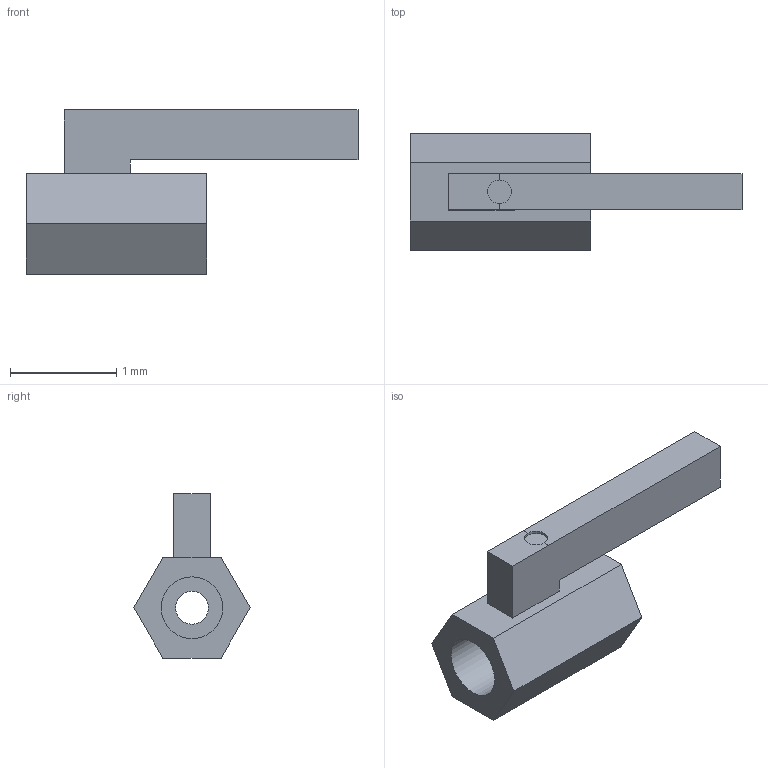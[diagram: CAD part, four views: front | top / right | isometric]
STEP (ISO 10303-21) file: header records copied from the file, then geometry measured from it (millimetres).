
FILE_DESCRIPTION(('Open CASCADE Model'),'2;1');
FILE_NAME('Open CASCADE Shape Model','2021-09-23T14:29:14',('Author'),( 'Open CASCADE'),'Open CASCADE STEP processor 7.3','Open CASCADE 7.3' ,'Unknown');
FILE_SCHEMA(('AUTOMOTIVE_DESIGN { 1 0 10303 214 1 1 1 1 }'));
Length unit declared in the file: millimetre
Products named in the file (1): Open CASCADE STEP translator 7.3 1
Bounding box: 3.12 x 1.09 x 1.54 mm (x, y, z)
Volume: 1.5 mm3; surface area: 14.1 mm2
Topology: 1 solids, 1 shells, 23 faces, 54 edges, 36 vertices
Faces by surface type: plane 19, cylinder 4
Full cylindrical faces by diameter (mm): 0.223 x1, 0.31 x1, 0.58 x2
Entity records: 1410 total; most frequent: CARTESIAN_POINT 286, DIRECTION 209, LINE 137, VECTOR 137, ORIENTED_EDGE 108, PCURVE 108, DEFINITIONAL_REPRESENTATION 108, EDGE_CURVE 54
